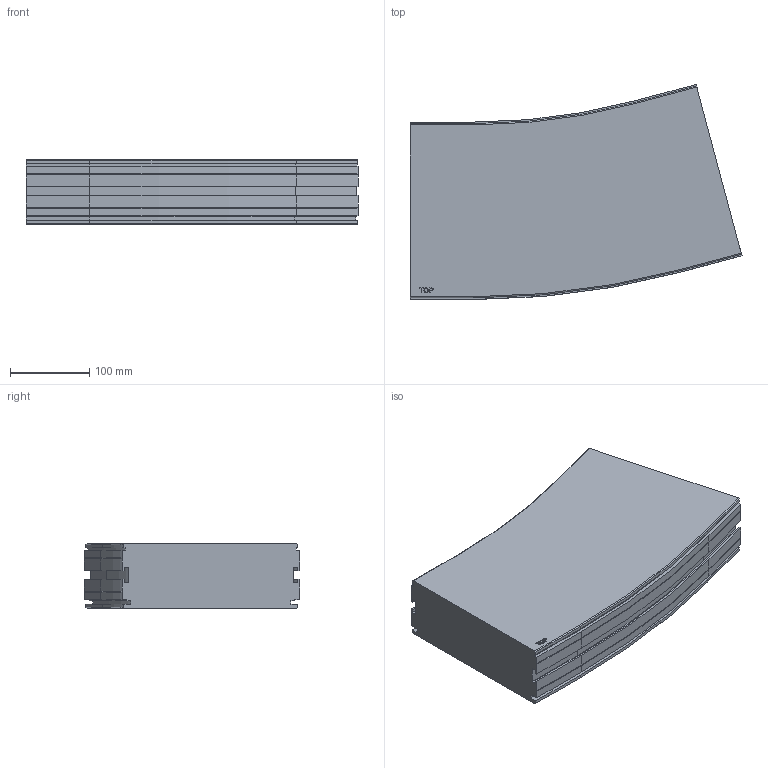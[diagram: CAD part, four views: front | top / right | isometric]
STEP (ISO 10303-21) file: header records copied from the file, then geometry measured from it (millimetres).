
FILE_DESCRIPTION(/* description */ ('GLIDKURVA SERIE 220'),/* implementation_level */ '2;1');
FILE_NAME(/* name */ '\\carryline.intra\privat\users\mathias\Desktop\Tillfälliga filer\220-5375+220-2000-01.stp',/* time_stamp */ '2018-11-29T12:50:05+01:00',/* author */ ('MD'),/* organization */ ('CARRYLINE'),/* preprocessor_version */ 'ST-DEVELOPER v17',/* originating_system */ 'Autodesk Inventor 2018',/* authorisation */ '');
FILE_SCHEMA (('AUTOMOTIVE_DESIGN { 1 0 10303 214 3 1 1 }'));
Length unit declared in the file: millimetre
Products named in the file (1): 220-5375+220-2000-01
Bounding box: 419.2 x 271.56 x 81.5 mm (x, y, z)
Volume: 7041134.1 mm3; surface area: 321103.7 mm2
Topology: 1 solids, 1 shells, 165 faces, 442 edges, 284 vertices
Faces by surface type: plane 115, cylinder 24, bspline 14, cone 12
Entity records: 5281 total; most frequent: CARTESIAN_POINT 1134, ORIENTED_EDGE 884, DIRECTION 774, EDGE_CURVE 442, LINE 358, VECTOR 358, VERTEX_POINT 284, AXIS2_PLACEMENT_3D 208
